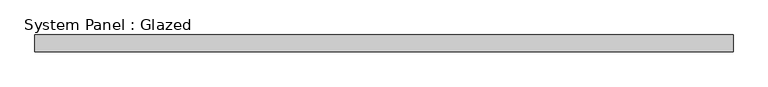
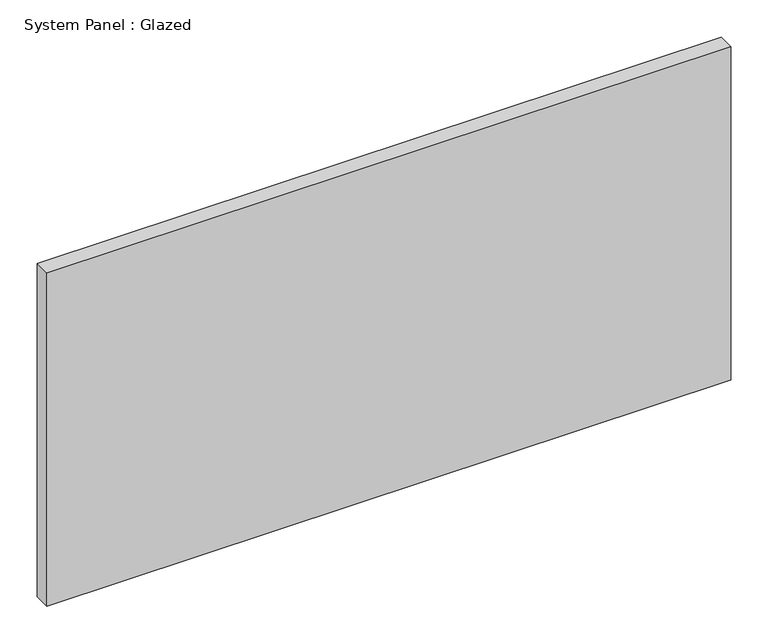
"""IFC4 building model written with IfcOpenShell, lengths in millimetres: plate geometry, System Panel : Glazed."""

from ifc_helpers import new_model, si_unit, origin, origin_with_axes, place, context, project, spatial, polyline, outline, extrude, source, transform, mapped, element, save


def system_panel_glazed_a1854eb2(model_context):
    return source(origin(), model_context, "Body", "SweptSolid", [
        extrude(outline(polyline([(529.5446429, 19.05), (-529.5446429, 19.05), (-529.5446429, 44.45), (529.5446429, 44.45), (529.5446429, 19.05)])), origin_with_axes(), (0.0, 0.0, 1.0), 546.1),
    ])


if __name__ == "__main__":
    model = new_model("IFC4")
    model_context = context("Model", 3, world=origin())
    ifc_project = project(units=[si_unit("LENGTHUNIT", "METRE", prefix="MILLI")], contexts=[model_context])
    site = spatial("IfcSite", under=ifc_project)
    building = spatial("IfcBuilding", under=site)
    placement = place(None, origin())
    system_panel_glazed_shape = system_panel_glazed_a1854eb2(model_context)
    element("IfcPlate", 1, ObjectType="System Panel : Glazed", at=placement, inside=building, context=model_context, shape_type="MappedRepresentation", body=[
        mapped(system_panel_glazed_shape, transform((0.0, 0.0, 0.0), x_axis=(1.0, 0.0, 0.0), y_axis=(0.0, 1.0, 0.0), z_axis=(0.0, 0.0, 1.0))),
    ])
    save(model, "model.ifc")
